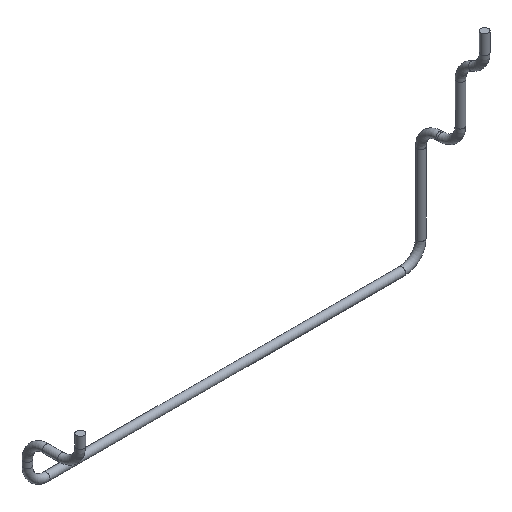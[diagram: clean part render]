
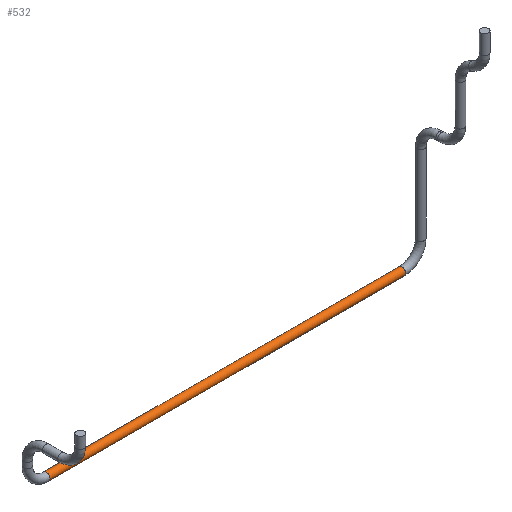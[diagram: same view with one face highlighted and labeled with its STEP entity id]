
A CAD part, isometric view. The second image highlights one B-rep face of the part: STEP entity #532.
In plain terms, the highlighted cylindrical face has radius 1 mm (diameter 2 mm), a full revolution.
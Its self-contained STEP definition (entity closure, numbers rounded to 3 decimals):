
#466 = TOROIDAL_SURFACE('',#467,5.,1.);
#467 = AXIS2_PLACEMENT_3D('',#468,#469,#470);
#468 = CARTESIAN_POINT('',(530.,528.5,744.));
#469 = DIRECTION('',(-0.,1.,0.));
#470 = DIRECTION('',(1.,0.,0.));
#483 = VERTEX_POINT('',#484);
#484 = CARTESIAN_POINT('',(530.,528.5,740.));
#505 = EDGE_CURVE('',#483,#483,#506,.T.);
#506 = SURFACE_CURVE('',#507,(#512,#519),.PCURVE_S1.);
#507 = CIRCLE('',#508,1.);
#508 = AXIS2_PLACEMENT_3D('',#509,#510,#511);
#509 = CARTESIAN_POINT('',(530.,528.5,739.));
#510 = DIRECTION('',(1.,0.,0.));
#511 = DIRECTION('',(0.,0.,-1.));
#512 = PCURVE('',#466,#513);
#513 = DEFINITIONAL_REPRESENTATION('',(#514),#518);
#514 = LINE('',#515,#516);
#515 = CARTESIAN_POINT('',(1.571,0.));
#516 = VECTOR('',#517,1.);
#517 = DIRECTION('',(0.,1.));
#518 = ( GEOMETRIC_REPRESENTATION_CONTEXT(2) 
PARAMETRIC_REPRESENTATION_CONTEXT() REPRESENTATION_CONTEXT('2D SPACE',''
  ) );
#519 = PCURVE('',#520,#525);
#520 = CYLINDRICAL_SURFACE('',#521,1.);
#521 = AXIS2_PLACEMENT_3D('',#522,#523,#524);
#522 = CARTESIAN_POINT('',(530.,528.5,739.));
#523 = DIRECTION('',(-1.,0.,0.));
#524 = DIRECTION('',(0.,0.,1.));
#525 = DEFINITIONAL_REPRESENTATION('',(#526),#529);
#526 = B_SPLINE_CURVE_WITH_KNOTS('',1,(#527,#528),.UNSPECIFIED.,.F.,.F.,
  (2,2),(3.142,9.425),.PIECEWISE_BEZIER_KNOTS.);
#527 = CARTESIAN_POINT('',(6.283,0.));
#528 = CARTESIAN_POINT('',(0.,0.));
#529 = ( GEOMETRIC_REPRESENTATION_CONTEXT(2) 
PARAMETRIC_REPRESENTATION_CONTEXT() REPRESENTATION_CONTEXT('2D SPACE',''
  ) );
#532 = ADVANCED_FACE('',(#533),#520,.T.);
#533 = FACE_BOUND('',#534,.T.);
#534 = EDGE_LOOP('',(#535,#557,#583,#584));
#535 = ORIENTED_EDGE('',*,*,#536,.T.);
#536 = EDGE_CURVE('',#483,#537,#539,.T.);
#537 = VERTEX_POINT('',#538);
#538 = CARTESIAN_POINT('',(436.,528.5,740.));
#539 = SEAM_CURVE('',#540,(#544,#550),.PCURVE_S1.);
#540 = LINE('',#541,#542);
#541 = CARTESIAN_POINT('',(530.,528.5,740.));
#542 = VECTOR('',#543,1.);
#543 = DIRECTION('',(-1.,0.,0.));
#544 = PCURVE('',#520,#545);
#545 = DEFINITIONAL_REPRESENTATION('',(#546),#549);
#546 = B_SPLINE_CURVE_WITH_KNOTS('',1,(#547,#548),.UNSPECIFIED.,.F.,.F.,
  (2,2),(0.,94.),.PIECEWISE_BEZIER_KNOTS.);
#547 = CARTESIAN_POINT('',(6.283,0.));
#548 = CARTESIAN_POINT('',(6.283,94.));
#549 = ( GEOMETRIC_REPRESENTATION_CONTEXT(2) 
PARAMETRIC_REPRESENTATION_CONTEXT() REPRESENTATION_CONTEXT('2D SPACE',''
  ) );
#550 = PCURVE('',#520,#551);
#551 = DEFINITIONAL_REPRESENTATION('',(#552),#556);
#552 = LINE('',#553,#554);
#553 = CARTESIAN_POINT('',(0.,0.));
#554 = VECTOR('',#555,1.);
#555 = DIRECTION('',(0.,1.));
#556 = ( GEOMETRIC_REPRESENTATION_CONTEXT(2) 
PARAMETRIC_REPRESENTATION_CONTEXT() REPRESENTATION_CONTEXT('2D SPACE',''
  ) );
#557 = ORIENTED_EDGE('',*,*,#558,.F.);
#558 = EDGE_CURVE('',#537,#537,#559,.T.);
#559 = SURFACE_CURVE('',#560,(#565,#572),.PCURVE_S1.);
#560 = CIRCLE('',#561,1.);
#561 = AXIS2_PLACEMENT_3D('',#562,#563,#564);
#562 = CARTESIAN_POINT('',(436.,528.5,739.));
#563 = DIRECTION('',(-1.,0.,0.));
#564 = DIRECTION('',(0.,0.,1.));
#565 = PCURVE('',#520,#566);
#566 = DEFINITIONAL_REPRESENTATION('',(#567),#571);
#567 = LINE('',#568,#569);
#568 = CARTESIAN_POINT('',(0.,94.));
#569 = VECTOR('',#570,1.);
#570 = DIRECTION('',(1.,0.));
#571 = ( GEOMETRIC_REPRESENTATION_CONTEXT(2) 
PARAMETRIC_REPRESENTATION_CONTEXT() REPRESENTATION_CONTEXT('2D SPACE',''
  ) );
#572 = PCURVE('',#573,#578);
#573 = TOROIDAL_SURFACE('',#574,5.,1.);
#574 = AXIS2_PLACEMENT_3D('',#575,#576,#577);
#575 = CARTESIAN_POINT('',(436.,528.5,744.));
#576 = DIRECTION('',(0.,1.,0.));
#577 = DIRECTION('',(0.,0.,-1.));
#578 = DEFINITIONAL_REPRESENTATION('',(#579),#582);
#579 = B_SPLINE_CURVE_WITH_KNOTS('',1,(#580,#581),.UNSPECIFIED.,.F.,.F.,
  (2,2),(0.,6.283),.PIECEWISE_BEZIER_KNOTS.);
#580 = CARTESIAN_POINT('',(0.,9.425));
#581 = CARTESIAN_POINT('',(0.,3.142));
#582 = ( GEOMETRIC_REPRESENTATION_CONTEXT(2) 
PARAMETRIC_REPRESENTATION_CONTEXT() REPRESENTATION_CONTEXT('2D SPACE',''
  ) );
#583 = ORIENTED_EDGE('',*,*,#536,.F.);
#584 = ORIENTED_EDGE('',*,*,#505,.F.);
